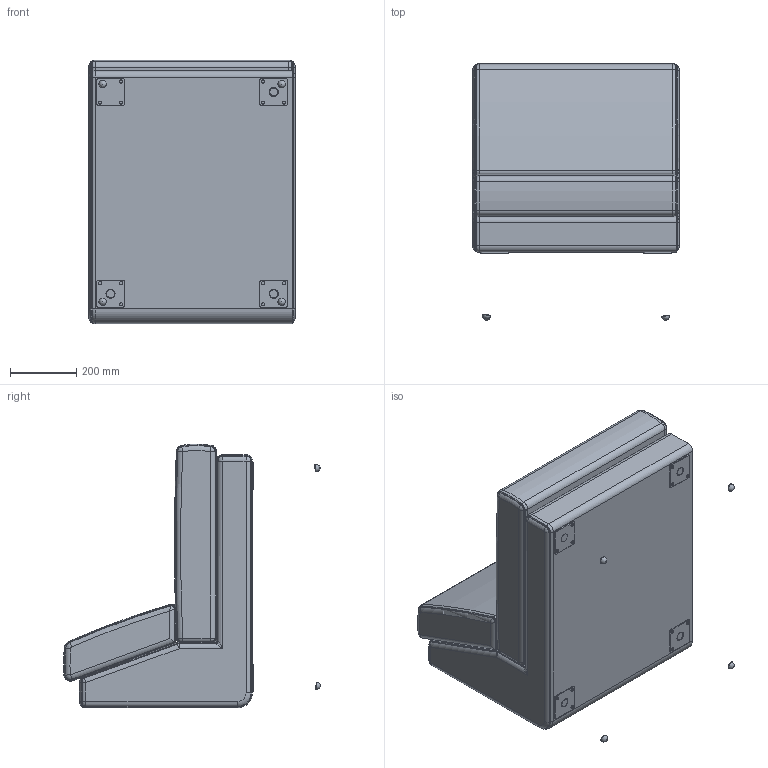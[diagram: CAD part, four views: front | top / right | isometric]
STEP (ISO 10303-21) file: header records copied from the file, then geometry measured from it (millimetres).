
FILE_DESCRIPTION(/* description */ (''),/* implementation_level */ '2;1');
FILE_NAME(/* name */ '9101.step',/* time_stamp */ '2026-07-29T13:59:13-07:00',/* author */ (''),/* organization */ (''),/* preprocessor_version */ 'ST-DEVELOPER v20.1',/* originating_system */ 'Autodesk Translation Framework v15.8.0.0',/* authorisation */ '');
FILE_SCHEMA (('AUTOMOTIVE_DESIGN { 1 0 10303 214 3 1 1 }'));
Length unit declared in the file: inch
Products named in the file (1): 2026-06-05-14-04-39-452
Bounding box: 622.3 x 773.05 x 793.38 mm (x, y, z)
Volume: 163302952.8 mm3; surface area: 4670410 mm2
Topology: 22 solids, 22 shells, 410 faces, 901 edges, 528 vertices
Faces by surface type: cylinder 145, torus 99, plane 74, bspline 43, sphere 41, cone 8
Full cylindrical faces by diameter (mm): 9.525 x12
Entity records: 12949 total; most frequent: CARTESIAN_POINT 3727, DIRECTION 2115, ORIENTED_EDGE 1786, AXIS2_PLACEMENT_3D 918, EDGE_CURVE 893, VERTEX_POINT 528, CIRCLE 524, EDGE_LOOP 443
